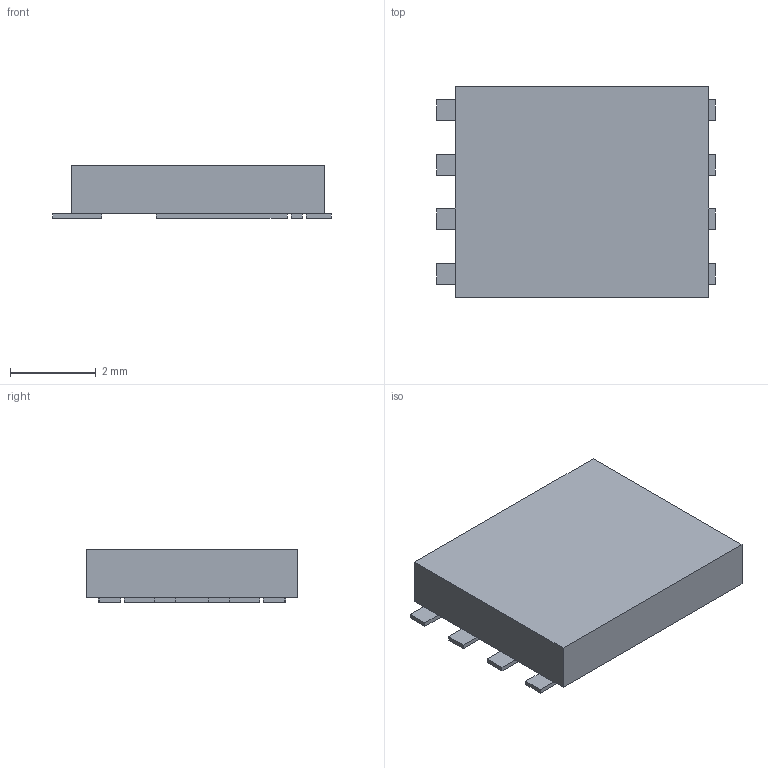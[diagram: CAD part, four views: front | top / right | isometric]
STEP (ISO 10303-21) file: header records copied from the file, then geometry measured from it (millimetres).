
FILE_DESCRIPTION(('FreeCAD Model'),'2;1');
FILE_NAME('/var/www/3D/0T/1475438.1.1.stp','2020-04-24T09:12:51',( 'Author'),(''),'Open CASCADE STEP processor 6.9','FreeCAD','Unknown' );
FILE_SCHEMA(('AUTOMOTIVE_DESIGN { 1 0 10303 214 1 1 1 1 }'));
Length unit declared in the file: millimetre
Products named in the file (3): ASSEMBLY; Body; Pins
Assembly tree (2 placements, depth 2):
  ASSEMBLY
    Body
    Pins
Bounding box: 6.49 x 4.9 x 1.22 mm (x, y, z)
Volume: 33.6 mm3; surface area: 111.7 mm2
Topology: 12 solids, 12 shells, 72 faces, 144 edges, 96 vertices
Faces by surface type: plane 72
Entity records: 3836 total; most frequent: CARTESIAN_POINT 603, DIRECTION 582, LINE 432, VECTOR 432, ORIENTED_EDGE 288, PCURVE 288, DEFINITIONAL_REPRESENTATION 288, EDGE_CURVE 144
